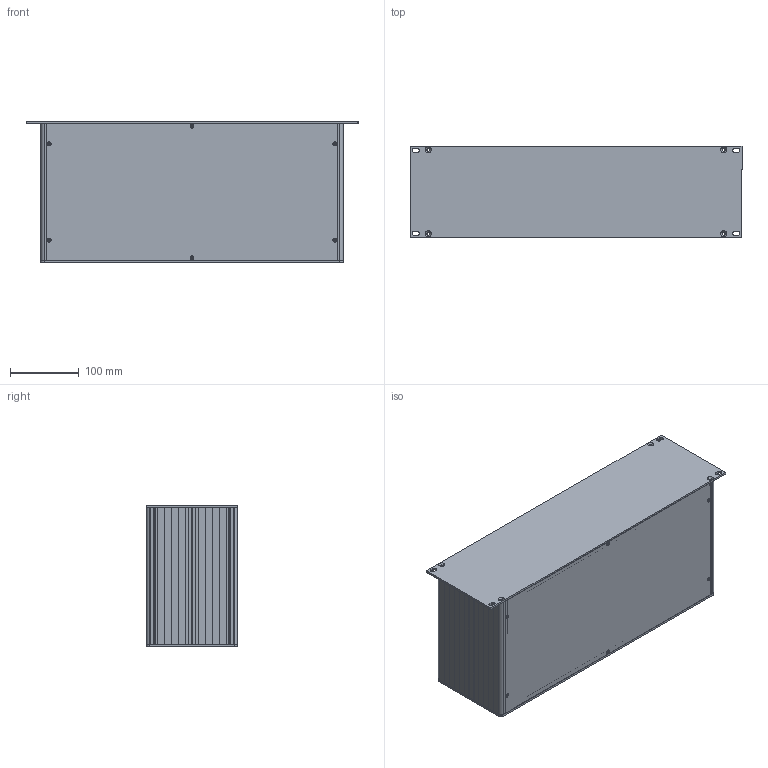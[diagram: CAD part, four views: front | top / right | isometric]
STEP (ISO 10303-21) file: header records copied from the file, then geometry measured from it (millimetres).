
FILE_DESCRIPTION (( 'STEP AP203' ), '1' );
FILE_NAME ('RM-130-20.STEP', '2025-01-27T07:27:12', ( '' ), ( '' ), 'SwSTEP 2.0', 'SolidWorks 2021', '' );
FILE_SCHEMA (( 'CONFIG_CONTROL_DESIGN' ));
Length unit declared in the file: millimetre
Products named in the file (7): AP-230_14 cm; Panel_1; RM-130-20; 1U_arka_panel; Panel_14 cm; 1U_on_panel; AP-230_1
Assembly tree (6 placements, depth 2):
  RM-130-20
    1U_arka_panel
    AP-230_14 cm
    1U_on_panel
    Panel_14 cm
    Panel_1
    AP-230_1
Bounding box: 482.6 x 132.55 x 206 mm (x, y, z)
Volume: 787651.9 mm3; surface area: 803183.6 mm2
Topology: 6 solids, 6 shells, 1204 faces, 3552 edges, 2360 vertices
Faces by surface type: plane 740, cylinder 424, cone 40
Entity records: 41349 total; most frequent: CARTESIAN_POINT 7165, ORIENTED_EDGE 7104, DIRECTION 6878, EDGE_CURVE 3552, LINE 2636, VECTOR 2636, VERTEX_POINT 2360, AXIS2_PLACEMENT_3D 2121
